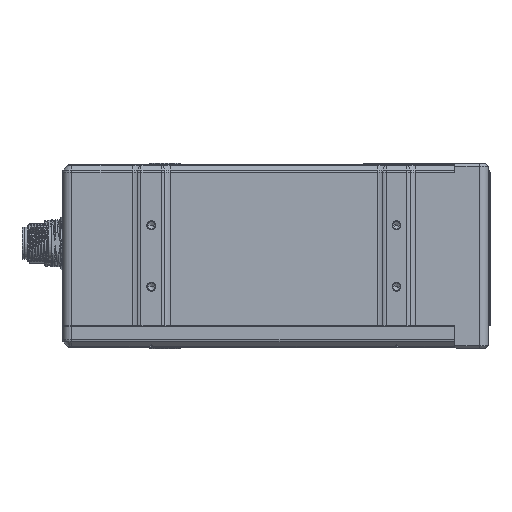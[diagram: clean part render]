
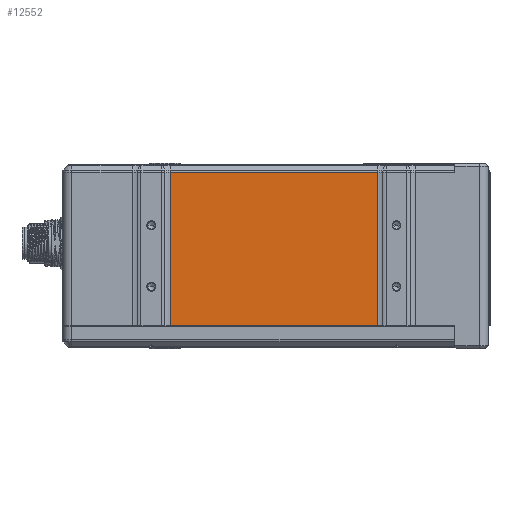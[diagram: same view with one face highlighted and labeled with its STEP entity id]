
A CAD part, left-side view. The second image highlights one B-rep face of the part: STEP entity #12552.
In plain terms, the highlighted planar face has unit normal (-1, 0, 0).
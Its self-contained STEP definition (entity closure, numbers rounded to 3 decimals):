
#3871=DIRECTION('',(0.,0.,1.));
#3872=VECTOR('',#3871,50.086);
#3873=CARTESIAN_POINT('',(0.,-102.82,-52.5));
#3874=LINE('',#3873,#3872);
#3895=DIRECTION('',(0.,1.,0.));
#3896=VECTOR('',#3895,67.641);
#3897=CARTESIAN_POINT('',(0.,-102.82,-2.414));
#3898=LINE('',#3897,#3896);
#3903=DIRECTION('',(0.,1.,0.));
#3904=VECTOR('',#3903,67.641);
#3905=CARTESIAN_POINT('',(0.,-102.82,-52.5));
#3906=LINE('',#3905,#3904);
#3907=DIRECTION('',(0.,0.,-1.));
#3908=VECTOR('',#3907,50.086);
#3909=CARTESIAN_POINT('',(0.,-35.18,-2.414));
#3910=LINE('',#3909,#3908);
#6560=CARTESIAN_POINT('',(0.,-35.18,-52.5));
#6561=VERTEX_POINT('',#6560);
#6562=CARTESIAN_POINT('',(0.,-102.82,-52.5));
#6563=VERTEX_POINT('',#6562);
#6754=CARTESIAN_POINT('',(0.,-102.82,-2.414));
#6755=CARTESIAN_POINT('',(0.,-35.18,-2.414));
#6756=VERTEX_POINT('',#6754);
#6757=VERTEX_POINT('',#6755);
#12540=CARTESIAN_POINT('',(0.,0.,0.));
#12541=DIRECTION('',(-1.,0.,0.));
#12542=DIRECTION('',(0.,-1.,0.));
#12543=AXIS2_PLACEMENT_3D('',#12540,#12541,#12542);
#12544=PLANE('',#12543);
#12545=ORIENTED_EDGE('',*,*,#12530,.F.);
#12546=ORIENTED_EDGE('',*,*,#12506,.F.);
#12547=ORIENTED_EDGE('',*,*,#8851,.T.);
#12549=ORIENTED_EDGE('',*,*,#12548,.F.);
#12550=EDGE_LOOP('',(#12545,#12546,#12547,#12549));
#12551=FACE_OUTER_BOUND('',#12550,.F.);
#12552=ADVANCED_FACE('',(#12551),#12544,.T.);
#8851=EDGE_CURVE('',#6563,#6561,#3906,.T.);
#12506=EDGE_CURVE('',#6563,#6756,#3874,.T.);
#12530=EDGE_CURVE('',#6756,#6757,#3898,.T.);
#12548=EDGE_CURVE('',#6757,#6561,#3910,.T.);
